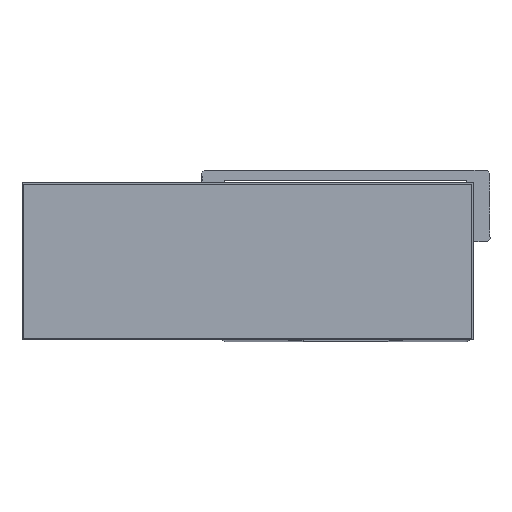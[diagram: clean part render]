
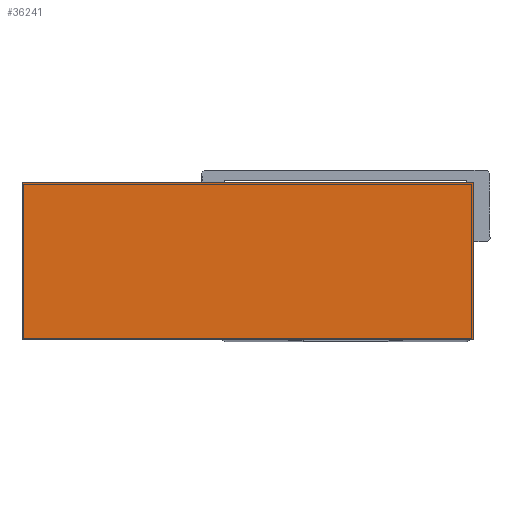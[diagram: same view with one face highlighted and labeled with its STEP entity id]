
A CAD part, top view. The second image highlights one B-rep face of the part: STEP entity #36241.
In plain terms, the highlighted planar face has unit normal (0, 0, 1).
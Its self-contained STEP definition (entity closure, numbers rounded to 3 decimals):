
#839 = VECTOR ( 'NONE', #21549, 1000. ) ;
#2036 = VERTEX_POINT ( 'NONE', #15880 ) ;
#2746 = FACE_OUTER_BOUND ( 'NONE', #20675, .T. ) ;
#2874 = CARTESIAN_POINT ( 'NONE',  ( 0., 109., 70. ) ) ;
#4681 = ORIENTED_EDGE ( 'NONE', *, *, #28797, .T. ) ;
#5428 = CARTESIAN_POINT ( 'NONE',  ( 313., 109., 70. ) ) ;
#7877 = EDGE_CURVE ( 'NONE', #19198, #2036, #36784, .T. ) ;
#8890 = LINE ( 'NONE', #30807, #839 ) ;
#12566 = DIRECTION ( 'NONE',  ( 1., 0., 0. ) ) ;
#12686 = ORIENTED_EDGE ( 'NONE', *, *, #7877, .T. ) ;
#12881 = CARTESIAN_POINT ( 'NONE',  ( 313., 0., 70. ) ) ;
#13233 = LINE ( 'NONE', #12881, #27560 ) ;
#15880 = CARTESIAN_POINT ( 'NONE',  ( 0., 109., 70. ) ) ;
#18016 = DIRECTION ( 'NONE',  ( 0., 0., -1. ) ) ;
#19198 = VERTEX_POINT ( 'NONE', #5428 ) ;
#19432 = EDGE_CURVE ( 'NONE', #30752, #23090, #35984, .T. ) ;
#20436 = AXIS2_PLACEMENT_3D ( 'NONE', #33369, #18016, #39477 ) ;
#20675 = EDGE_LOOP ( 'NONE', ( #4681, #24826, #37749, #12686 ) ) ;
#21549 = DIRECTION ( 'NONE',  ( 0., -1., 0. ) ) ;
#22234 = CARTESIAN_POINT ( 'NONE',  ( 0., 0., 70. ) ) ;
#23090 = VERTEX_POINT ( 'NONE', #35304 ) ;
#24130 = DIRECTION ( 'NONE',  ( -1., 0., 0. ) ) ;
#24826 = ORIENTED_EDGE ( 'NONE', *, *, #19432, .T. ) ;
#25106 = DIRECTION ( 'NONE',  ( 0., 1., 0. ) ) ;
#27560 = VECTOR ( 'NONE', #25106, 1000. ) ;
#27798 = CARTESIAN_POINT ( 'NONE',  ( 0., 0., 70. ) ) ;
#27867 = VECTOR ( 'NONE', #12566, 1000. ) ;
#28797 = EDGE_CURVE ( 'NONE', #2036, #30752, #8890, .T. ) ;
#29663 = VECTOR ( 'NONE', #24130, 1000. ) ;
#30296 = PLANE ( 'NONE',  #20436 ) ;
#30752 = VERTEX_POINT ( 'NONE', #22234 ) ;
#30807 = CARTESIAN_POINT ( 'NONE',  ( 0., 0., 70. ) ) ;
#33369 = CARTESIAN_POINT ( 'NONE',  ( 0., 0., 70. ) ) ;
#34627 = EDGE_CURVE ( 'NONE', #23090, #19198, #13233, .T. ) ;
#35304 = CARTESIAN_POINT ( 'NONE',  ( 313., 0., 70. ) ) ;
#35984 = LINE ( 'NONE', #27798, #27867 ) ;
#36241 = ADVANCED_FACE ( 'NONE', ( #2746 ), #30296, .F. ) ;
#36784 = LINE ( 'NONE', #2874, #29663 ) ;
#37749 = ORIENTED_EDGE ( 'NONE', *, *, #34627, .T. ) ;
#39477 = DIRECTION ( 'NONE',  ( -1., 0., 0. ) ) ;
